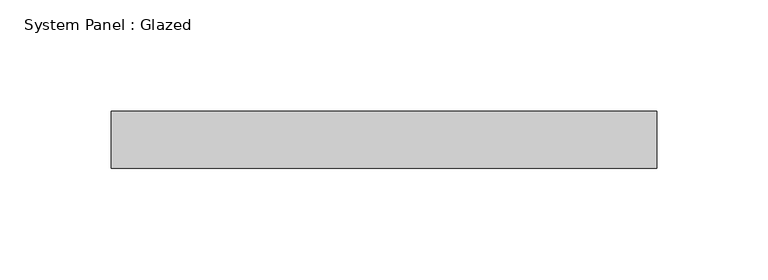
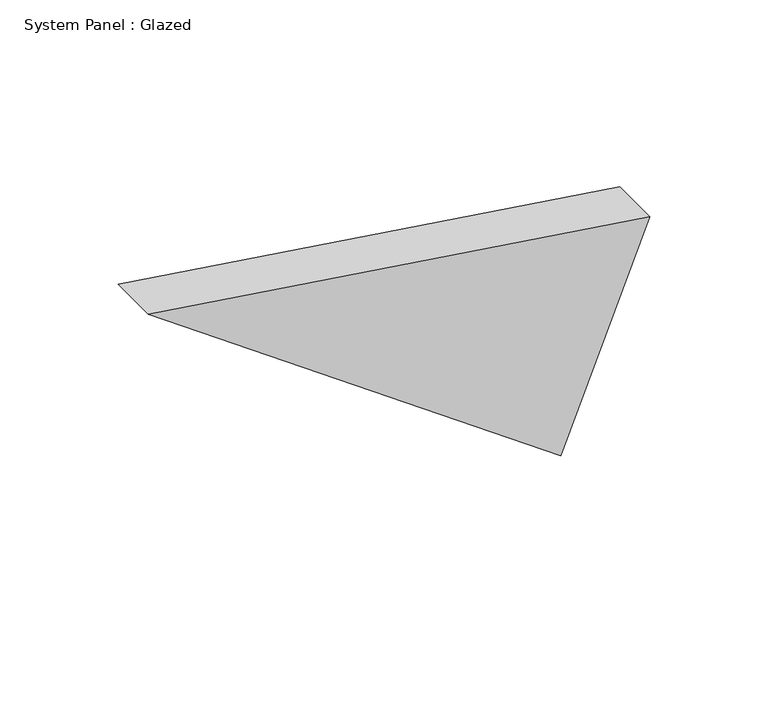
"""IFC4 building model written with IfcOpenShell, lengths in millimetres: plate geometry, System Panel : Glazed."""

from ifc_helpers import new_model, si_unit, frame, origin, place, context, project, spatial, polyline, outline, extrude, source, transform, mapped, element, save


def system_panel_glazed_17da916d(model_context):
    return source(origin(), model_context, "Body", "SweptSolid", [
        extrude(outline(polyline([(0.0, 78.9632602), (108.0593811, 122.2876136), (143.402438, -122.2876136), (0.0, 78.9632602)])), frame((0.0, -44.45, 0.0), z_axis=(0.0, 1.0, 0.0), x_axis=(0.0, 0.0, 1.0)), (0.0, 0.0, 1.0), 25.4),
    ])


if __name__ == "__main__":
    model = new_model("IFC4")
    model_context = context("Model", 3, world=origin())
    ifc_project = project(units=[si_unit("LENGTHUNIT", "METRE", prefix="MILLI")], contexts=[model_context])
    site = spatial("IfcSite", under=ifc_project)
    building = spatial("IfcBuilding", under=site)
    placement = place(None, origin())
    system_panel_glazed_shape = system_panel_glazed_17da916d(model_context)
    element("IfcPlate", 1, ObjectType="System Panel : Glazed", at=placement, inside=building, context=model_context, shape_type="MappedRepresentation", body=[
        mapped(system_panel_glazed_shape, transform((0.0, 0.0, 0.0), x_axis=(1.0, 0.0, 0.0), y_axis=(0.0, 1.0, 0.0), z_axis=(0.0, 0.0, 1.0))),
    ])
    save(model, "model.ifc")
